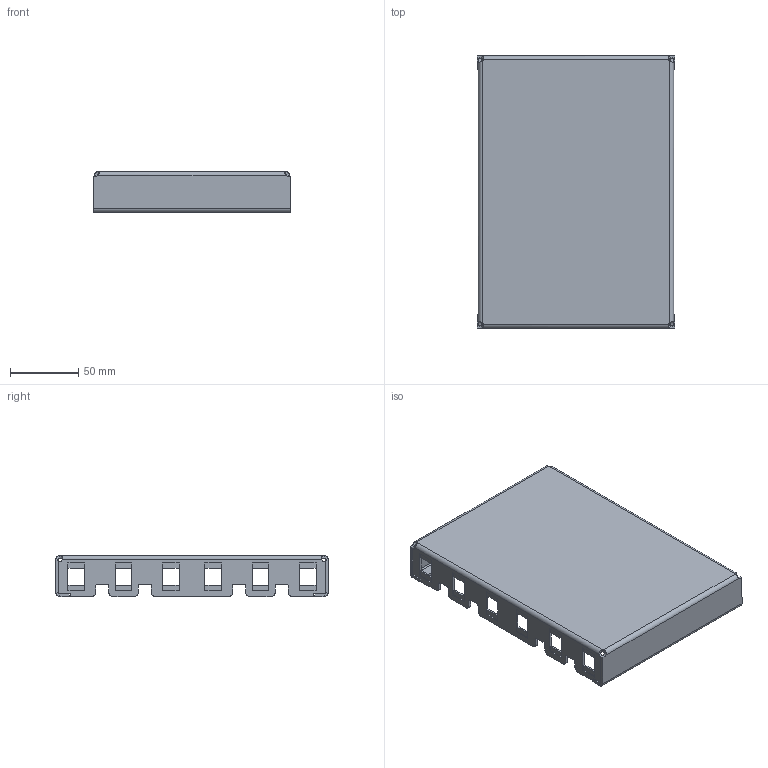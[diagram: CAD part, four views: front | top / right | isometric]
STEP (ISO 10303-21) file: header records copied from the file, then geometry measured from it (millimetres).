
FILE_DESCRIPTION (( 'STEP AP203' ), '1' );
FILE_NAME ('EUZE-T0300D.STEP', '2020-03-09T14:45:38', ( '' ), ( '' ), 'SwSTEP 2.0', 'SolidWorks 2019', '' );
FILE_SCHEMA (( 'CONFIG_CONTROL_DESIGN' ));
Length unit declared in the file: millimetre
Products named in the file (1): EUZE-T0300D
Bounding box: 144 x 199 x 30 mm (x, y, z)
Volume: 91329.4 mm3; surface area: 95740.8 mm2
Topology: 1 solids, 1 shells, 238 faces, 660 edges, 424 vertices
Faces by surface type: plane 174, cylinder 56, bspline 8
Entity records: 7843 total; most frequent: CARTESIAN_POINT 1653, ORIENTED_EDGE 1320, DIRECTION 1186, EDGE_CURVE 660, LINE 532, VECTOR 532, VERTEX_POINT 424, AXIS2_PLACEMENT_3D 327
